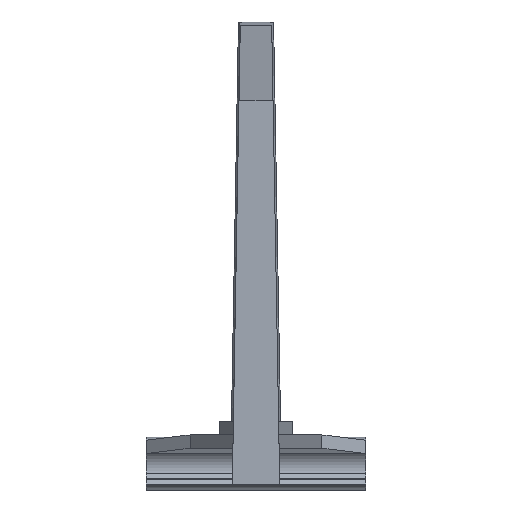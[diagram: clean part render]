
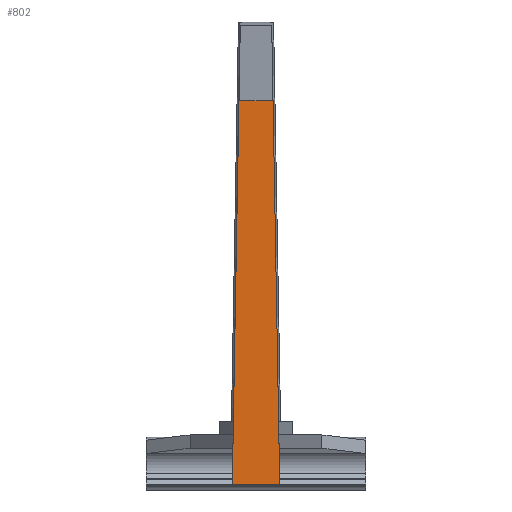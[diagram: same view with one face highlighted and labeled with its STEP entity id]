
A CAD part, front view. The second image highlights one B-rep face of the part: STEP entity #802.
In plain terms, the highlighted planar face has unit normal (0, -1, 0).
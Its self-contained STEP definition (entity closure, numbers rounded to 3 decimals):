
#5 = LINE ( 'NONE', #1988, #6 ) ;
#6 = VECTOR ( 'NONE', #1989, 1000. ) ;
#46 = LINE ( 'NONE', #490, #47 ) ;
#47 = VECTOR ( 'NONE', #491, 1000. ) ;
#102 = AXIS2_PLACEMENT_3D ( 'NONE', #553, #308, #309 ) ;
#149 = ORIENTED_EDGE ( 'NONE', *, *, #646, .F. ) ;
#150 = ORIENTED_EDGE ( 'NONE', *, *, #1416, .F. ) ;
#151 = ORIENTED_EDGE ( 'NONE', *, *, #1031, .T. ) ;
#308 = DIRECTION ( 'NONE',  ( 0., 1., 0. ) ) ;
#309 = DIRECTION ( 'NONE',  ( 0., 0., 1. ) ) ;
#315 = CARTESIAN_POINT ( 'NONE',  ( 3.873, 0., 93.345 ) ) ;
#319 = CARTESIAN_POINT ( 'NONE',  ( 5.396, 0., 6.1 ) ) ;
#322 = CARTESIAN_POINT ( 'NONE',  ( -5.396, 0., 6.1 ) ) ;
#343 = CARTESIAN_POINT ( 'NONE',  ( -3.873, 0., 93.345 ) ) ;
#349 = ORIENTED_EDGE ( 'NONE', *, *, #1387, .F. ) ;
#490 = CARTESIAN_POINT ( 'NONE',  ( -3.56, 0., 93.345 ) ) ;
#491 = DIRECTION ( 'NONE',  ( 1., 0., 0. ) ) ;
#553 = CARTESIAN_POINT ( 'NONE',  ( -3.56, 0., 111.3 ) ) ;
#556 = PLANE ( 'NONE',  #102 ) ;
#573 = CARTESIAN_POINT ( 'NONE',  ( 3.56, 0., 111.3 ) ) ;
#574 = DIRECTION ( 'NONE',  ( 0.017, 0., -1. ) ) ;
#646 = EDGE_CURVE ( 'NONE', #933, #935, #1102, .T. ) ;
#753 = EDGE_LOOP ( 'NONE', ( #349, #149, #150, #151 ) ) ;
#802 = ADVANCED_FACE ( 'NONE', ( #2111 ), #556, .F. ) ;
#933 = VERTEX_POINT ( 'NONE', #315 ) ;
#935 = VERTEX_POINT ( 'NONE', #319 ) ;
#939 = VERTEX_POINT ( 'NONE', #322 ) ;
#991 = VERTEX_POINT ( 'NONE', #343 ) ;
#1031 = EDGE_CURVE ( 'NONE', #991, #939, #2151, .T. ) ;
#1102 = LINE ( 'NONE', #573, #1103 ) ;
#1103 = VECTOR ( 'NONE', #574, 1000. ) ;
#1387 = EDGE_CURVE ( 'NONE', #935, #939, #5, .T. ) ;
#1416 = EDGE_CURVE ( 'NONE', #991, #933, #46, .T. ) ;
#1988 = CARTESIAN_POINT ( 'NONE',  ( 211.796, 0., 6.1 ) ) ;
#1989 = DIRECTION ( 'NONE',  ( -1., 0., 0. ) ) ;
#2111 = FACE_OUTER_BOUND ( 'NONE', #753, .T. ) ;
#2151 = LINE ( 'NONE', #2249, #2152 ) ;
#2152 = VECTOR ( 'NONE', #2250, 1000. ) ;
#2249 = CARTESIAN_POINT ( 'NONE',  ( -3.56, 0., 111.3 ) ) ;
#2250 = DIRECTION ( 'NONE',  ( -0.017, 0., -1. ) ) ;
